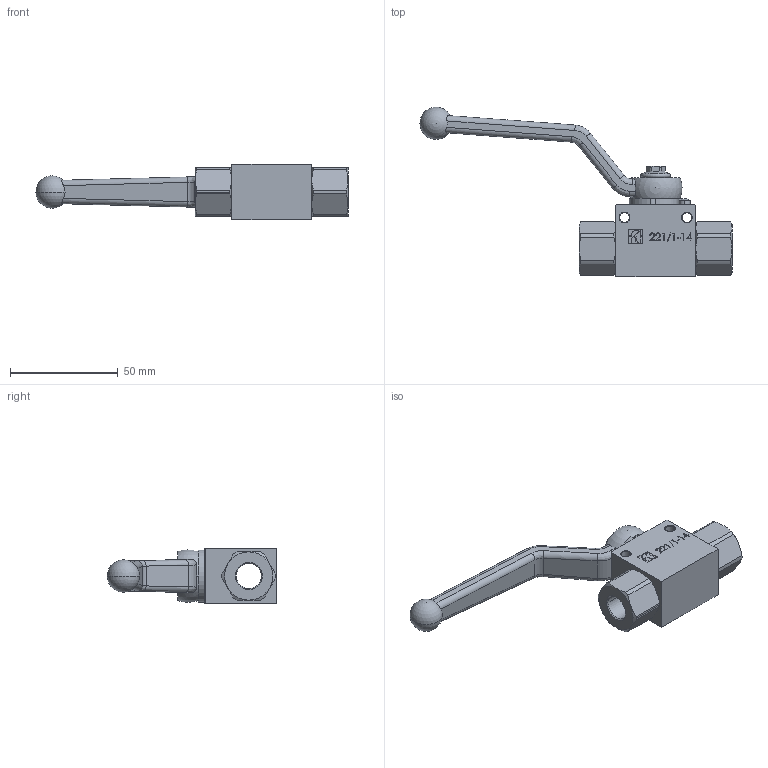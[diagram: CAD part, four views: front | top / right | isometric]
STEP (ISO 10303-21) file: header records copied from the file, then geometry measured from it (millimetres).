
FILE_DESCRIPTION (( 'STEP AP214' ), '1' );
FILE_NAME ('221-1-14.STEP', '2015-05-15T13:13:22', ( '' ), ( '' ), 'SwSTEP 2.0', 'SolidWorks 2014', '' );
FILE_SCHEMA (( 'AUTOMOTIVE_DESIGN' ));
Length unit declared in the file: millimetre
Products named in the file (1): 221-1-14
Bounding box: 145 x 78.75 x 26 mm (x, y, z)
Surface area: 16458.5 mm2 (no closed solid volume)
Topology: 0 solids, 3 shells, 207 faces, 620 edges, 415 vertices
Faces by surface type: plane 98, cylinder 58, cone 22, bspline 20, sphere 5, torus 4
Entity records: 10466 total; most frequent: CARTESIAN_POINT 2818, ORIENTED_EDGE 1119, DIRECTION 1047, EDGE_CURVE 607, VERTEX_POINT 407, VECTOR 355, LINE 355, AXIS2_PLACEMENT_3D 346
